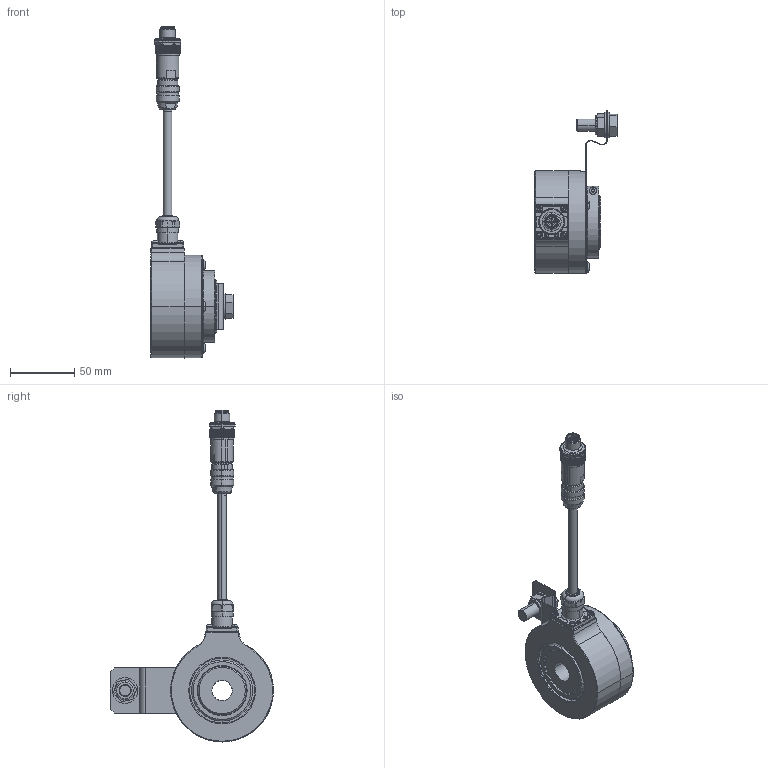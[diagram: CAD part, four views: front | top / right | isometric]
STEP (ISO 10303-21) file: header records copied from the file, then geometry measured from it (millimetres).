
FILE_DESCRIPTION (( 'STEP AP203' ), '1' );
FILE_NAME ('K80I.OXX.XXXXX.XH2484A.6XR13.XXXX.step', '2025-12-09T10:41:55', ( '' ), ( '' ), 'SwSTEP 2.0', 'SolidWorks 2021', '' );
FILE_SCHEMA (( 'CONFIG_CONTROL_DESIGN' ));
Length unit declared in the file: millimetre
Products named in the file (1): K80I.OXX.XXXXX.XH2484A.6XR13.XXXX
Bounding box: 63.95 x 127.03 x 258.56 mm (x, y, z)
Volume: 241939.2 mm3; surface area: 91903.6 mm2
Topology: 23 solids, 25 shells, 1824 faces, 4542 edges, 2810 vertices
Faces by surface type: plane 690, cylinder 683, cone 324, bspline 66, torus 45, sphere 16
Entity records: 58612 total; most frequent: CARTESIAN_POINT 15881, ORIENTED_EDGE 9044, DIRECTION 8895, EDGE_CURVE 4522, AXIS2_PLACEMENT_3D 3516, VERTEX_POINT 2808, EDGE_LOOP 1942, LINE 1863
